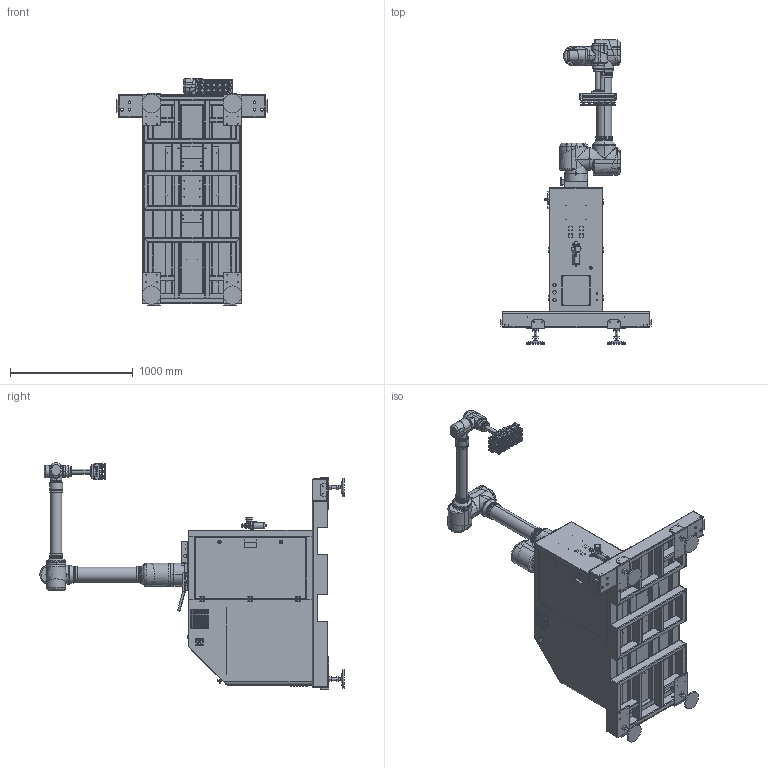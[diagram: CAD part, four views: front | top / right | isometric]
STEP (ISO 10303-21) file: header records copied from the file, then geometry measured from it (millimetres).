
FILE_DESCRIPTION (( 'STEP AP214' ), '1' );
FILE_NAME ('WP20.STEP', '2025-03-17T06:40:20', ( '' ), ( '' ), 'SwSTEP 2.0', 'SolidWorks 2018', '' );
FILE_SCHEMA (( 'AUTOMOTIVE_DESIGN' ));
Length unit declared in the file: millimetre
Products named in the file (2): WP20
Bounding box: 1230 x 2479.19 x 1848 mm (x, y, z)
Surface area: 17468291.7 mm2 (no closed solid volume)
Topology: 0 solids, 269 shells, 1937 faces, 8249 edges, 6394 vertices
Faces by surface type: bspline 772, plane 607, cylinder 439, cone 103, torus 16
Entity records: 157804 total; most frequent: CARTESIAN_POINT 78338, ORIENTED_EDGE 11402, DIRECTION 9588, EDGE_CURVE 8226, VERTEX_POINT 6394, AXIS2_PLACEMENT_3D 3304, LINE 2980, VECTOR 2980
